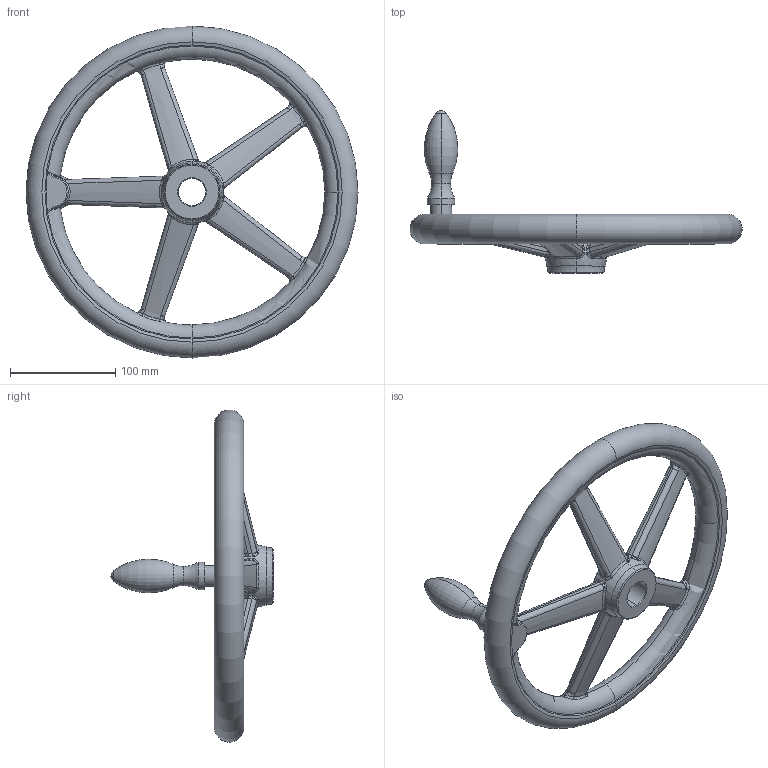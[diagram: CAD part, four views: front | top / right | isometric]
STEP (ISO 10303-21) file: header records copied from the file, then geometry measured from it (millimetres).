
FILE_DESCRIPTION (( 'STEP AP203' ), '1' );
FILE_NAME ('din950_f4_315x26.step', '2010-03-23T10:34:41', ( '_' ), ( '_' ), 'SwSTEP 2.0', 'SolidWorks 2010', '' );
FILE_SCHEMA (( 'CONFIG_CONTROL_DESIGN' ));
Length unit declared in the file: millimetre
Products named in the file (1): din950_f4_315x26
Bounding box: 314.89 x 154.5 x 314.89 mm (x, y, z)
Volume: 892395.2 mm3; surface area: 135371.2 mm2
Topology: 1 solids, 1 shells, 280 faces, 692 edges, 361 vertices
Faces by surface type: bspline 208, torus 26, plane 16, cone 16, cylinder 12, sphere 2
Entity records: 53728 total; most frequent: CARTESIAN_POINT 48568, ORIENTED_EDGE 1296, DIRECTION 658, EDGE_CURVE 648, B_SPLINE_CURVE_WITH_KNOTS 379, VERTEX_POINT 361, AXIS2_PLACEMENT_3D 316, EDGE_LOOP 283
